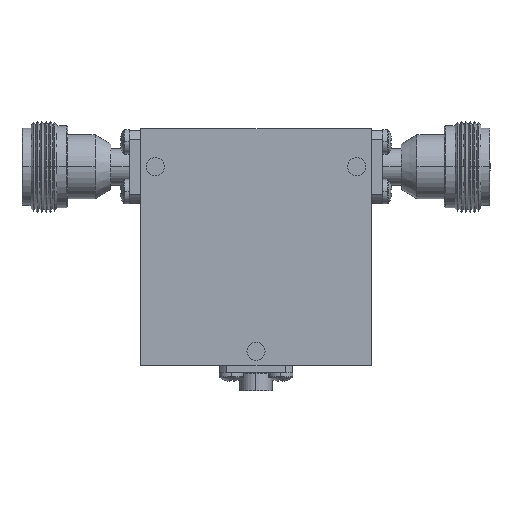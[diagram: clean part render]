
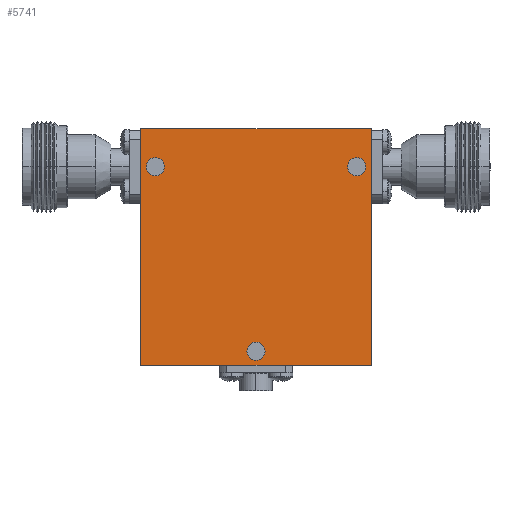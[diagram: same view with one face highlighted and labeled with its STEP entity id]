
A CAD part, top view. The second image highlights one B-rep face of the part: STEP entity #5741.
In plain terms, the highlighted planar face has unit normal (0, 0, 1) as drawn and (0, 0, -1) by its records, which use the part's own axes.
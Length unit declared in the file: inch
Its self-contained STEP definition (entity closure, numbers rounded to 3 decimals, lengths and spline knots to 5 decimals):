
#5 = EDGE_CURVE ( 'NONE', #766, #4338, #4071, .T. ) ;
#50 = DIRECTION ( 'NONE',  ( 1., 0., 0. ) ) ;
#259 = EDGE_CURVE ( 'NONE', #2388, #2029, #883, .T. ) ;
#356 = AXIS2_PLACEMENT_3D ( 'NONE', #1083, #3653, #50 ) ;
#447 = ORIENTED_EDGE ( 'NONE', *, *, #1056, .T. ) ;
#486 = CARTESIAN_POINT ( 'NONE',  ( 0.6275, 0.55, -0.365 ) ) ;
#582 = EDGE_CURVE ( 'NONE', #595, #2344, #6061, .T. ) ;
#595 = VERTEX_POINT ( 'NONE', #2603 ) ;
#650 = FACE_OUTER_BOUND ( 'NONE', #5622, .T. ) ;
#766 = VERTEX_POINT ( 'NONE', #486 ) ;
#822 = DIRECTION ( 'NONE',  ( 0., 0., 1. ) ) ;
#832 = EDGE_LOOP ( 'NONE', ( #1661, #5058 ) ) ;
#840 = DIRECTION ( 'NONE',  ( 0., -1., 0. ) ) ;
#846 = EDGE_CURVE ( 'NONE', #3402, #1002, #1845, .T. ) ;
#883 = LINE ( 'NONE', #3974, #2145 ) ;
#917 = DIRECTION ( 'NONE',  ( 1., 0., 0. ) ) ;
#976 = DIRECTION ( 'NONE',  ( 0., 0., 1. ) ) ;
#1002 = VERTEX_POINT ( 'NONE', #2769 ) ;
#1056 = EDGE_CURVE ( 'NONE', #4338, #766, #6054, .T. ) ;
#1083 = CARTESIAN_POINT ( 'NONE',  ( 0., -0.715, -0.365 ) ) ;
#1158 = DIRECTION ( 'NONE',  ( 0., 0., 1. ) ) ;
#1181 = ORIENTED_EDGE ( 'NONE', *, *, #4606, .T. ) ;
#1222 = AXIS2_PLACEMENT_3D ( 'NONE', #2637, #1158, #3147 ) ;
#1401 = AXIS2_PLACEMENT_3D ( 'NONE', #4925, #822, #917 ) ;
#1402 = ORIENTED_EDGE ( 'NONE', *, *, #582, .T. ) ;
#1408 = ORIENTED_EDGE ( 'NONE', *, *, #259, .F. ) ;
#1465 = DIRECTION ( 'NONE',  ( 0., 1., 0. ) ) ;
#1634 = CARTESIAN_POINT ( 'NONE',  ( 0.7525, 0.55, -0.365 ) ) ;
#1661 = ORIENTED_EDGE ( 'NONE', *, *, #5113, .T. ) ;
#1787 = LINE ( 'NONE', #3043, #2980 ) ;
#1845 = CIRCLE ( 'NONE', #3907, 0.0625 ) ;
#1987 = EDGE_CURVE ( 'NONE', #2508, #3323, #5886, .T. ) ;
#2025 = CIRCLE ( 'NONE', #5700, 0.0625 ) ;
#2029 = VERTEX_POINT ( 'NONE', #3002 ) ;
#2145 = VECTOR ( 'NONE', #840, 39.37008 ) ;
#2205 = EDGE_LOOP ( 'NONE', ( #1181, #1402 ) ) ;
#2287 = ORIENTED_EDGE ( 'NONE', *, *, #4190, .F. ) ;
#2338 = CARTESIAN_POINT ( 'NONE',  ( -0.79, 0.81, -0.365 ) ) ;
#2344 = VERTEX_POINT ( 'NONE', #5390 ) ;
#2388 = VERTEX_POINT ( 'NONE', #2338 ) ;
#2508 = VERTEX_POINT ( 'NONE', #4555 ) ;
#2603 = CARTESIAN_POINT ( 'NONE',  ( -0.0625, -0.715, -0.365 ) ) ;
#2637 = CARTESIAN_POINT ( 'NONE',  ( 0., 0., -0.365 ) ) ;
#2651 = AXIS2_PLACEMENT_3D ( 'NONE', #4769, #4245, #5327 ) ;
#2676 = PLANE ( 'NONE',  #1222 ) ;
#2769 = CARTESIAN_POINT ( 'NONE',  ( -0.6275, 0.55, -0.365 ) ) ;
#2864 = CARTESIAN_POINT ( 'NONE',  ( -0.69, 0.55, -0.365 ) ) ;
#2980 = VECTOR ( 'NONE', #3562, 39.37008 ) ;
#3002 = CARTESIAN_POINT ( 'NONE',  ( -0.79, -0.81, -0.365 ) ) ;
#3014 = LINE ( 'NONE', #3436, #3984 ) ;
#3043 = CARTESIAN_POINT ( 'NONE',  ( -0.79, -0.81, -0.365 ) ) ;
#3050 = FACE_BOUND ( 'NONE', #4985, .T. ) ;
#3147 = DIRECTION ( 'NONE',  ( 1., 0., 0. ) ) ;
#3260 = VECTOR ( 'NONE', #1465, 39.37008 ) ;
#3282 = FACE_BOUND ( 'NONE', #2205, .T. ) ;
#3323 = VERTEX_POINT ( 'NONE', #5772 ) ;
#3378 = DIRECTION ( 'NONE',  ( 1., 0., 0. ) ) ;
#3402 = VERTEX_POINT ( 'NONE', #3600 ) ;
#3436 = CARTESIAN_POINT ( 'NONE',  ( -0.79, 0.81, -0.365 ) ) ;
#3540 = DIRECTION ( 'NONE',  ( 1., 0., 0. ) ) ;
#3562 = DIRECTION ( 'NONE',  ( 1., 0., 0. ) ) ;
#3600 = CARTESIAN_POINT ( 'NONE',  ( -0.7525, 0.55, -0.365 ) ) ;
#3653 = DIRECTION ( 'NONE',  ( 0., 0., 1. ) ) ;
#3849 = EDGE_CURVE ( 'NONE', #3323, #2388, #3014, .T. ) ;
#3851 = FACE_BOUND ( 'NONE', #832, .T. ) ;
#3907 = AXIS2_PLACEMENT_3D ( 'NONE', #6550, #976, #6065 ) ;
#3974 = CARTESIAN_POINT ( 'NONE',  ( -0.79, 0.81, -0.365 ) ) ;
#3984 = VECTOR ( 'NONE', #4997, 39.37008 ) ;
#4071 = CIRCLE ( 'NONE', #6181, 0.0625 ) ;
#4190 = EDGE_CURVE ( 'NONE', #2029, #2508, #1787, .T. ) ;
#4245 = DIRECTION ( 'NONE',  ( 0., 0., 1. ) ) ;
#4338 = VERTEX_POINT ( 'NONE', #1634 ) ;
#4525 = DIRECTION ( 'NONE',  ( 0., 0., 1. ) ) ;
#4555 = CARTESIAN_POINT ( 'NONE',  ( 0.79, -0.81, -0.365 ) ) ;
#4606 = EDGE_CURVE ( 'NONE', #2344, #595, #5757, .T. ) ;
#4769 = CARTESIAN_POINT ( 'NONE',  ( 0.69, 0.55, -0.365 ) ) ;
#4925 = CARTESIAN_POINT ( 'NONE',  ( 0., -0.715, -0.365 ) ) ;
#4985 = EDGE_LOOP ( 'NONE', ( #447, #6404 ) ) ;
#4997 = DIRECTION ( 'NONE',  ( -1., 0., 0. ) ) ;
#5058 = ORIENTED_EDGE ( 'NONE', *, *, #846, .T. ) ;
#5113 = EDGE_CURVE ( 'NONE', #1002, #3402, #2025, .T. ) ;
#5327 = DIRECTION ( 'NONE',  ( 1., 0., 0. ) ) ;
#5390 = CARTESIAN_POINT ( 'NONE',  ( 0.0625, -0.715, -0.365 ) ) ;
#5513 = CARTESIAN_POINT ( 'NONE',  ( 0.69, 0.55, -0.365 ) ) ;
#5619 = ORIENTED_EDGE ( 'NONE', *, *, #3849, .F. ) ;
#5622 = EDGE_LOOP ( 'NONE', ( #6419, #2287, #1408, #5619 ) ) ;
#5700 = AXIS2_PLACEMENT_3D ( 'NONE', #2864, #5905, #3378 ) ;
#5741 = ADVANCED_FACE ( 'NONE', ( #3050, #3282, #3851, #650 ), #2676, .F. ) ;
#5757 = CIRCLE ( 'NONE', #1401, 0.0625 ) ;
#5772 = CARTESIAN_POINT ( 'NONE',  ( 0.79, 0.81, -0.365 ) ) ;
#5886 = LINE ( 'NONE', #6526, #3260 ) ;
#5905 = DIRECTION ( 'NONE',  ( 0., 0., 1. ) ) ;
#6054 = CIRCLE ( 'NONE', #2651, 0.0625 ) ;
#6061 = CIRCLE ( 'NONE', #356, 0.0625 ) ;
#6065 = DIRECTION ( 'NONE',  ( 1., 0., 0. ) ) ;
#6181 = AXIS2_PLACEMENT_3D ( 'NONE', #5513, #4525, #3540 ) ;
#6404 = ORIENTED_EDGE ( 'NONE', *, *, #5, .T. ) ;
#6419 = ORIENTED_EDGE ( 'NONE', *, *, #1987, .F. ) ;
#6526 = CARTESIAN_POINT ( 'NONE',  ( 0.79, 0.81, -0.365 ) ) ;
#6550 = CARTESIAN_POINT ( 'NONE',  ( -0.69, 0.55, -0.365 ) ) ;
